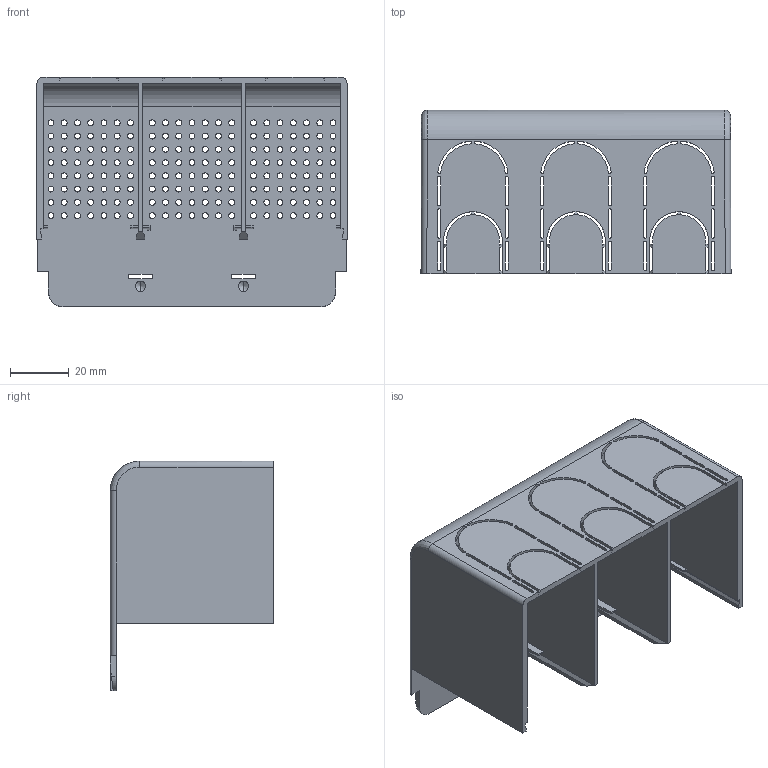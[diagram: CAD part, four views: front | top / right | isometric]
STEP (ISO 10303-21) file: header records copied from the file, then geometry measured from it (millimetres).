
FILE_DESCRIPTION (( 'STEP AP214' ), '1' );
FILE_NAME ('Êðûøêà êëåììíàÿ Optimat E100.STEP', '2015-04-24T06:46:47', ( 'admin' ), ( '' ), 'SwSTEP 2.0', 'SolidWorks 2012', '' );
FILE_SCHEMA (( 'AUTOMOTIVE_DESIGN' ));
Length unit declared in the file: millimetre
Products named in the file (1): Êðûøêà êëåììíàÿ Optimat E100
Bounding box: 105.3 x 55.5 x 78 mm (x, y, z)
Volume: 44689.7 mm3; surface area: 52947.6 mm2
Topology: 1 solids, 1 shells, 657 faces, 1969 edges, 1300 vertices
Faces by surface type: cylinder 466, plane 182, cone 7, bspline 2
Entity records: 23470 total; most frequent: DIRECTION 4202, CARTESIAN_POINT 4041, ORIENTED_EDGE 3930, EDGE_CURVE 1965, AXIS2_PLACEMENT_3D 1595, VERTEX_POINT 1300, EDGE_LOOP 1059, VECTOR 1012
